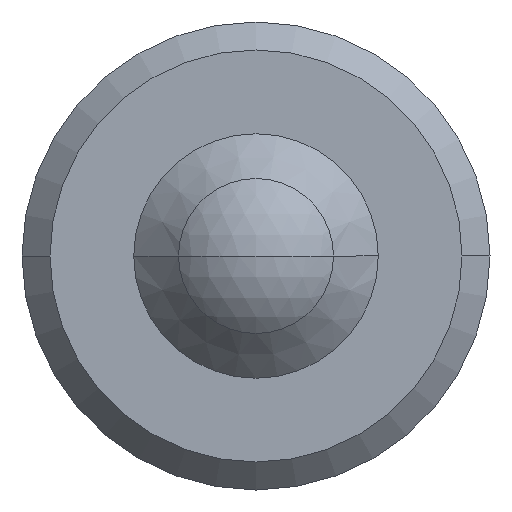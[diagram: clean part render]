
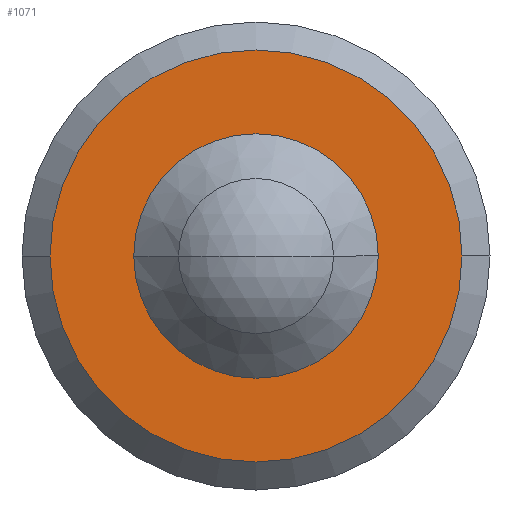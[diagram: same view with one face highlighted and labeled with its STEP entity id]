
A CAD part, front view. The second image highlights one B-rep face of the part: STEP entity #1071.
In plain terms, the highlighted planar face has unit normal (0, -1, 0).
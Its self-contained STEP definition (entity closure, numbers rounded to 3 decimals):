
#16 = ORIENTED_EDGE ( 'NONE', *, *, #1031, .T. ) ;
#23 = ORIENTED_EDGE ( 'NONE', *, *, #1332, .T. ) ;
#39 = ORIENTED_EDGE ( 'NONE', *, *, #1010, .T. ) ;
#65 = VERTEX_POINT ( 'NONE', #267 ) ;
#68 = VERTEX_POINT ( 'NONE', #311 ) ;
#79 = VERTEX_POINT ( 'NONE', #264 ) ;
#91 = VERTEX_POINT ( 'NONE', #295 ) ;
#264 = CARTESIAN_POINT ( 'NONE',  ( 2.95, 4.05, 0. ) ) ;
#267 = CARTESIAN_POINT ( 'NONE',  ( 1.65, 4.05, 0. ) ) ;
#295 = CARTESIAN_POINT ( 'NONE',  ( -1.65, 4.05, 0. ) ) ;
#311 = CARTESIAN_POINT ( 'NONE',  ( -2.95, 4.05, 0. ) ) ;
#379 = CARTESIAN_POINT ( 'NONE',  ( 0., 4.05, 0. ) ) ;
#382 = DIRECTION ( 'NONE',  ( -1., 0., 0. ) ) ;
#396 = DIRECTION ( 'NONE',  ( 0., 1., 0. ) ) ;
#467 = DIRECTION ( 'NONE',  ( 0., -1., 0. ) ) ;
#489 = DIRECTION ( 'NONE',  ( -1., 0., 0. ) ) ;
#494 = CARTESIAN_POINT ( 'NONE',  ( 0., 4.05, 0. ) ) ;
#572 = FACE_BOUND ( 'NONE', #888, .T. ) ;
#592 = CARTESIAN_POINT ( 'NONE',  ( 3.35, 4.05, 0. ) ) ;
#593 = DIRECTION ( 'NONE',  ( -1., 0., 0. ) ) ;
#594 = PLANE ( 'NONE',  #1482 ) ;
#599 = FACE_OUTER_BOUND ( 'NONE', #885, .T. ) ;
#635 = DIRECTION ( 'NONE',  ( 0., 1., 0. ) ) ;
#885 = EDGE_LOOP ( 'NONE', ( #16, #979 ) ) ;
#888 = EDGE_LOOP ( 'NONE', ( #23, #39 ) ) ;
#979 = ORIENTED_EDGE ( 'NONE', *, *, #1352, .T. ) ;
#1010 = EDGE_CURVE ( 'NONE', #65, #91, #1442, .T. ) ;
#1031 = EDGE_CURVE ( 'NONE', #68, #79, #1416, .T. ) ;
#1071 = ADVANCED_FACE ( 'NONE', ( #599, #572 ), #594, .F. ) ;
#1147 = CARTESIAN_POINT ( 'NONE',  ( 0., 4.05, 0. ) ) ;
#1148 = DIRECTION ( 'NONE',  ( -1., 0., 0. ) ) ;
#1171 = DIRECTION ( 'NONE',  ( 0., -1., 0. ) ) ;
#1254 = DIRECTION ( 'NONE',  ( -1., 0., 0. ) ) ;
#1263 = CARTESIAN_POINT ( 'NONE',  ( 0., 4.05, 0. ) ) ;
#1277 = DIRECTION ( 'NONE',  ( 0., 1., 0. ) ) ;
#1332 = EDGE_CURVE ( 'NONE', #91, #65, #1576, .T. ) ;
#1352 = EDGE_CURVE ( 'NONE', #79, #68, #1622, .T. ) ;
#1414 = AXIS2_PLACEMENT_3D ( 'NONE', #494, #467, #489 ) ;
#1416 = CIRCLE ( 'NONE', #1414, 2.95 ) ;
#1433 = AXIS2_PLACEMENT_3D ( 'NONE', #379, #396, #382 ) ;
#1442 = CIRCLE ( 'NONE', #1433, 1.65 ) ;
#1482 = AXIS2_PLACEMENT_3D ( 'NONE', #592, #635, #593 ) ;
#1576 = CIRCLE ( 'NONE', #1592, 1.65 ) ;
#1592 = AXIS2_PLACEMENT_3D ( 'NONE', #1263, #1277, #1254 ) ;
#1616 = AXIS2_PLACEMENT_3D ( 'NONE', #1147, #1171, #1148 ) ;
#1622 = CIRCLE ( 'NONE', #1616, 2.95 ) ;
